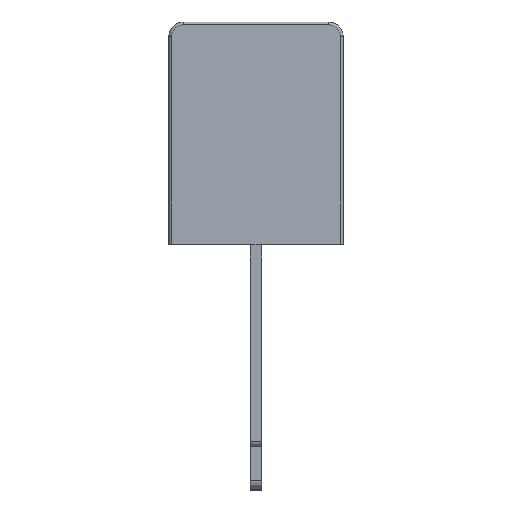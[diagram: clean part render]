
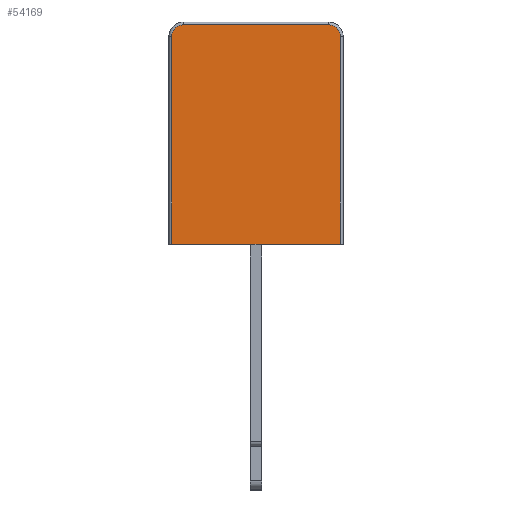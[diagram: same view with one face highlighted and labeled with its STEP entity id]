
A CAD part, top view. The second image highlights one B-rep face of the part: STEP entity #54169.
In plain terms, the highlighted planar face has unit normal (0, 0.009, 1).
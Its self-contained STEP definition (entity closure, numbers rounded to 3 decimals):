
#21791=DIRECTION('',(0.,-1.,0.009));
#21792=VECTOR('',#21791,14.302);
#21793=CARTESIAN_POINT('',(11.8,14.303,
-6.783));
#21794=LINE('',#21793,#21792);
#21800=DIRECTION('',(1.,0.,0.));
#21801=VECTOR('',#21800,11.6);
#21802=CARTESIAN_POINT('',(0.2,0.002,-6.658));
#21803=LINE('',#21802,#21801);
#21804=CARTESIAN_POINT('',(1.,14.304,
-6.783));
#21805=DIRECTION('',(0.,0.009,1.));
#21806=DIRECTION('',(0.,1.,-0.009));
#21807=AXIS2_PLACEMENT_3D('',#21804,#21805,#21806);
#21809=DIRECTION('',(0.,1.,-0.009));
#21810=VECTOR('',#21809,14.302);
#21811=CARTESIAN_POINT('',(0.2,0.002,-6.658));
#21812=LINE('',#21811,#21810);
#21817=CARTESIAN_POINT('',(0.2,0.002,-6.658));
#21836=DIRECTION('',(1.,0.,0.));
#21837=VECTOR('',#21836,10.);
#21838=CARTESIAN_POINT('',(1.,15.103,
-6.79));
#21839=LINE('',#21838,#21837);
#21849=CARTESIAN_POINT('',(11.,14.304,
-6.783));
#21850=DIRECTION('',(0.,-0.009,-1.));
#21851=DIRECTION('',(0.,1.,-0.009));
#21852=AXIS2_PLACEMENT_3D('',#21849,#21850,#21851);
#22412=VERTEX_POINT('',#21817);
#22413=CARTESIAN_POINT('',(11.8,0.002,-6.658));
#22414=VERTEX_POINT('',#22413);
#22419=CARTESIAN_POINT('',(0.2,14.303,
-6.783));
#22420=VERTEX_POINT('',#22419);
#22476=CARTESIAN_POINT('',(1.,15.103,
-6.79));
#22477=VERTEX_POINT('',#22476);
#22478=CARTESIAN_POINT('',(11.,15.103,
-6.79));
#22479=VERTEX_POINT('',#22478);
#22480=CARTESIAN_POINT('',(11.8,14.303,
-6.783));
#22481=VERTEX_POINT('',#22480);
#54152=CARTESIAN_POINT('',(-0.768,7.102,-6.72));
#54153=DIRECTION('',(0.,0.009,1.));
#54154=DIRECTION('',(1.,0.,0.));
#54155=AXIS2_PLACEMENT_3D('',#54152,#54153,#54154);
#54156=PLANE('',#54155);
#54157=ORIENTED_EDGE('',*,*,#54042,.F.);
#54159=ORIENTED_EDGE('',*,*,#54158,.T.);
#54161=ORIENTED_EDGE('',*,*,#54160,.F.);
#54163=ORIENTED_EDGE('',*,*,#54162,.T.);
#54165=ORIENTED_EDGE('',*,*,#54164,.T.);
#54166=ORIENTED_EDGE('',*,*,#54145,.T.);
#54167=EDGE_LOOP('',(#54157,#54159,#54161,#54163,#54165,#54166));
#54168=FACE_OUTER_BOUND('',#54167,.F.);
#54169=ADVANCED_FACE('',(#54168),#54156,.T.);
#21808=CIRCLE('',#21807,0.8);
#21853=CIRCLE('',#21852,0.8);
#54042=EDGE_CURVE('',#22412,#22414,#21803,.T.);
#54145=EDGE_CURVE('',#22481,#22414,#21794,.T.);
#54158=EDGE_CURVE('',#22412,#22420,#21812,.T.);
#54160=EDGE_CURVE('',#22477,#22420,#21808,.T.);
#54162=EDGE_CURVE('',#22477,#22479,#21839,.T.);
#54164=EDGE_CURVE('',#22479,#22481,#21853,.T.);
